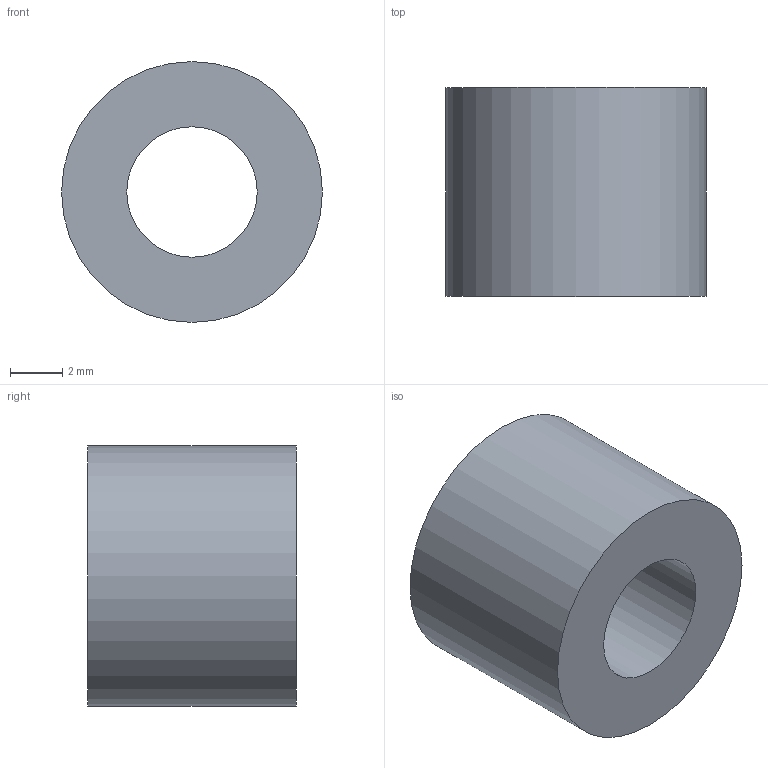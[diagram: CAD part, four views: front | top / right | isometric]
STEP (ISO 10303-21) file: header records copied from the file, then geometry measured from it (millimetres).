
FILE_DESCRIPTION(('Open CASCADE Model'),'2;1');
FILE_NAME('Open CASCADE Shape Model','2026-10-20T13:19:55',('Author'),( 'Open CASCADE'),'Open CASCADE STEP processor 7.9','Open CASCADE 7.9' ,'Unknown');
FILE_SCHEMA(('AUTOMOTIVE_DESIGN { 1 0 10303 214 1 1 1 1 }'));
Length unit declared in the file: millimetre
Products named in the file (1): Open CASCADE STEP translator 7.9 85
Bounding box: 10 x 8 x 10 mm (x, y, z)
Volume: 471.2 mm3; surface area: 494.8 mm2
Topology: 1 solids, 1 shells, 4 faces, 6 edges, 4 vertices
Faces by surface type: cylinder 2, plane 2
Full cylindrical faces by diameter (mm): 5 x1, 10 x1
Entity records: 186 total; most frequent: DIRECTION 32, CARTESIAN_POINT 27, ORIENTED_EDGE 12, PCURVE 12, DEFINITIONAL_REPRESENTATION 12, LINE 10, VECTOR 10, AXIS2_PLACEMENT_3D 9
